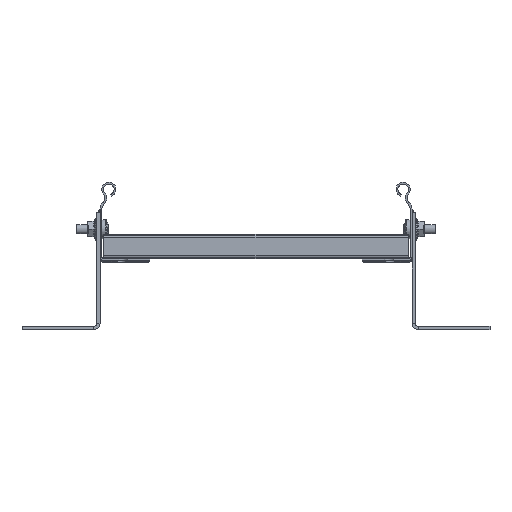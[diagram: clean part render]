
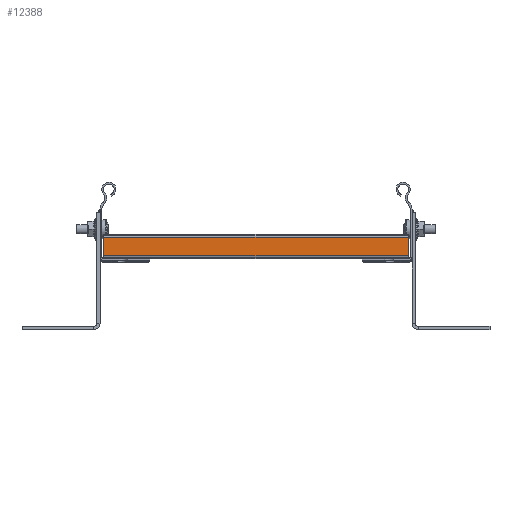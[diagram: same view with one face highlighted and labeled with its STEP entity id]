
A CAD part, front view. The second image highlights one B-rep face of the part: STEP entity #12388.
In plain terms, the highlighted planar face has unit normal (0, -1, 0) as drawn and (1, 0, 0) by its records, which use the part's own axes.
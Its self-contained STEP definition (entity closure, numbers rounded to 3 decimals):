
#217 = VERTEX_POINT ( 'NONE', #19862 ) ;
#455 = EDGE_CURVE ( 'NONE', #7400, #4976, #19438, .T. ) ;
#599 = EDGE_CURVE ( 'NONE', #217, #4976, #17218, .T. ) ;
#631 = CARTESIAN_POINT ( 'NONE',  ( 17.5, 15.44, 0. ) ) ;
#715 = LINE ( 'NONE', #1487, #16841 ) ;
#1487 = CARTESIAN_POINT ( 'NONE',  ( 17.5, 15.44, 195. ) ) ;
#1797 = VECTOR ( 'NONE', #9827, 1000. ) ;
#2607 = CARTESIAN_POINT ( 'NONE',  ( 17.5, 13.64, 0. ) ) ;
#4188 = CARTESIAN_POINT ( 'NONE',  ( 17.5, 1.8, 0. ) ) ;
#4556 = CARTESIAN_POINT ( 'NONE',  ( 17.5, 13.64, 195. ) ) ;
#4894 = LINE ( 'NONE', #18488, #7355 ) ;
#4976 = VERTEX_POINT ( 'NONE', #4188 ) ;
#5005 = ORIENTED_EDGE ( 'NONE', *, *, #6136, .T. ) ;
#5633 = ORIENTED_EDGE ( 'NONE', *, *, #455, .F. ) ;
#6136 = EDGE_CURVE ( 'NONE', #17906, #217, #715, .T. ) ;
#6159 = CARTESIAN_POINT ( 'NONE',  ( 17.5, 15.44, 195. ) ) ;
#7355 = VECTOR ( 'NONE', #15514, 1000. ) ;
#7400 = VERTEX_POINT ( 'NONE', #2607 ) ;
#7754 = DIRECTION ( 'NONE',  ( 0., 1., 0. ) ) ;
#8757 = CARTESIAN_POINT ( 'NONE',  ( 17.5, 1.8, 195. ) ) ;
#9827 = DIRECTION ( 'NONE',  ( 0., -1., 0. ) ) ;
#11363 = EDGE_CURVE ( 'NONE', #17906, #7400, #4894, .T. ) ;
#11533 = ORIENTED_EDGE ( 'NONE', *, *, #599, .T. ) ;
#12064 = VECTOR ( 'NONE', #19722, 1000. ) ;
#12388 = ADVANCED_FACE ( 'NONE', ( #15107 ), #20264, .T. ) ;
#15107 = FACE_OUTER_BOUND ( 'NONE', #16094, .T. ) ;
#15171 = AXIS2_PLACEMENT_3D ( 'NONE', #6159, #18745, #7754 ) ;
#15514 = DIRECTION ( 'NONE',  ( 0., 0., -1. ) ) ;
#16094 = EDGE_LOOP ( 'NONE', ( #5633, #19439, #5005, #11533 ) ) ;
#16841 = VECTOR ( 'NONE', #17073, 1000. ) ;
#17073 = DIRECTION ( 'NONE',  ( 0., -1., 0. ) ) ;
#17218 = LINE ( 'NONE', #8757, #12064 ) ;
#17906 = VERTEX_POINT ( 'NONE', #4556 ) ;
#18488 = CARTESIAN_POINT ( 'NONE',  ( 17.5, 13.64, 195. ) ) ;
#18745 = DIRECTION ( 'NONE',  ( 1., 0., 0. ) ) ;
#19438 = LINE ( 'NONE', #631, #1797 ) ;
#19439 = ORIENTED_EDGE ( 'NONE', *, *, #11363, .F. ) ;
#19722 = DIRECTION ( 'NONE',  ( 0., 0., -1. ) ) ;
#19862 = CARTESIAN_POINT ( 'NONE',  ( 17.5, 1.8, 195. ) ) ;
#20264 = PLANE ( 'NONE',  #15171 ) ;
